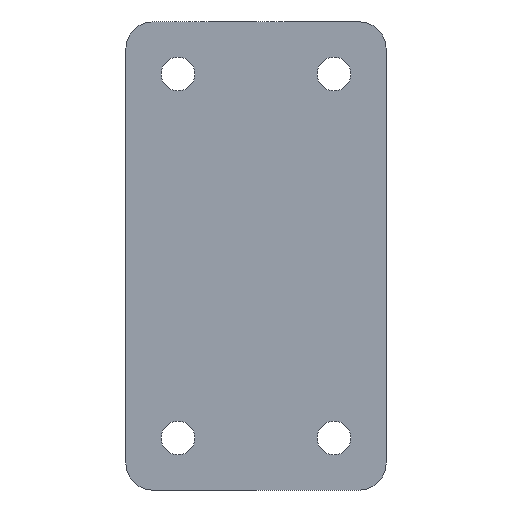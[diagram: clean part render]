
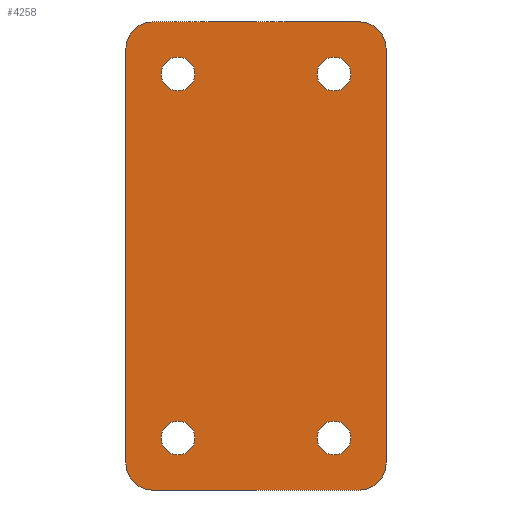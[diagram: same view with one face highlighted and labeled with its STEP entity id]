
A CAD part, front view. The second image highlights one B-rep face of the part: STEP entity #4258.
In plain terms, the highlighted planar face has unit normal (0, -1, 0).
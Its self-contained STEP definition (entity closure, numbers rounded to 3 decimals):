
#90 = ORIENTED_EDGE ( 'NONE', *, *, #631, .T. ) ;
#117 = EDGE_LOOP ( 'NONE', ( #2375, #2669 ) ) ;
#144 = DIRECTION ( 'NONE',  ( 0., 0., 1. ) ) ;
#202 = CARTESIAN_POINT ( 'NONE',  ( -40., -5., 80. ) ) ;
#277 = ORIENTED_EDGE ( 'NONE', *, *, #3677, .T. ) ;
#337 = AXIS2_PLACEMENT_3D ( 'NONE', #1187, #3618, #4159 ) ;
#358 = CARTESIAN_POINT ( 'NONE',  ( -50., -5., 80. ) ) ;
#398 = CARTESIAN_POINT ( 'NONE',  ( 0., -5., 0. ) ) ;
#404 = DIRECTION ( 'NONE',  ( 0., 1., 0. ) ) ;
#414 = VERTEX_POINT ( 'NONE', #6115 ) ;
#532 = EDGE_CURVE ( 'NONE', #3685, #6202, #1707, .T. ) ;
#551 = VERTEX_POINT ( 'NONE', #2772 ) ;
#557 = CIRCLE ( 'NONE', #4397, 6.5 ) ;
#631 = EDGE_CURVE ( 'NONE', #551, #414, #557, .T. ) ;
#690 = CARTESIAN_POINT ( 'NONE',  ( -50., -5., -80. ) ) ;
#759 = CARTESIAN_POINT ( 'NONE',  ( -40., -5., -90. ) ) ;
#819 = ORIENTED_EDGE ( 'NONE', *, *, #3833, .T. ) ;
#872 = ORIENTED_EDGE ( 'NONE', *, *, #1612, .F. ) ;
#945 = CIRCLE ( 'NONE', #5158, 6.5 ) ;
#958 = DIRECTION ( 'NONE',  ( 0., 0., 1. ) ) ;
#1000 = CIRCLE ( 'NONE', #4966, 6.5 ) ;
#1027 = CARTESIAN_POINT ( 'NONE',  ( -30., -5., -70. ) ) ;
#1046 = DIRECTION ( 'NONE',  ( 0., 1., 0. ) ) ;
#1048 = DIRECTION ( 'NONE',  ( 0., 0., 1. ) ) ;
#1091 = DIRECTION ( 'NONE',  ( -1., 0., 0. ) ) ;
#1110 = DIRECTION ( 'NONE',  ( 0., 0., -1. ) ) ;
#1115 = DIRECTION ( 'NONE',  ( 0., -1., 0. ) ) ;
#1164 = EDGE_LOOP ( 'NONE', ( #1904, #3305, #872, #4162, #3911, #6103, #1541, #2469 ) ) ;
#1187 = CARTESIAN_POINT ( 'NONE',  ( 30., -5., 70. ) ) ;
#1243 = DIRECTION ( 'NONE',  ( 0., -1., 0. ) ) ;
#1374 = CIRCLE ( 'NONE', #4313, 6.5 ) ;
#1464 = VERTEX_POINT ( 'NONE', #2437 ) ;
#1482 = EDGE_CURVE ( 'NONE', #4222, #5170, #945, .T. ) ;
#1507 = DIRECTION ( 'NONE',  ( 0., 1., 0. ) ) ;
#1520 = EDGE_CURVE ( 'NONE', #2970, #6202, #3714, .T. ) ;
#1541 = ORIENTED_EDGE ( 'NONE', *, *, #4040, .F. ) ;
#1595 = AXIS2_PLACEMENT_3D ( 'NONE', #2624, #1115, #3663 ) ;
#1611 = CARTESIAN_POINT ( 'NONE',  ( 50., -5., -80. ) ) ;
#1612 = EDGE_CURVE ( 'NONE', #3685, #5223, #1934, .T. ) ;
#1654 = DIRECTION ( 'NONE',  ( 0., 1., 0. ) ) ;
#1677 = CARTESIAN_POINT ( 'NONE',  ( -30., -5., 63.5 ) ) ;
#1692 = FACE_BOUND ( 'NONE', #5657, .T. ) ;
#1707 = CIRCLE ( 'NONE', #5811, 10. ) ;
#1791 = CARTESIAN_POINT ( 'NONE',  ( -50., -5., -90. ) ) ;
#1838 = VECTOR ( 'NONE', #2371, 1000. ) ;
#1864 = VECTOR ( 'NONE', #1091, 1000. ) ;
#1904 = ORIENTED_EDGE ( 'NONE', *, *, #4350, .F. ) ;
#1934 = LINE ( 'NONE', #3068, #1864 ) ;
#1952 = VERTEX_POINT ( 'NONE', #690 ) ;
#2158 = DIRECTION ( 'NONE',  ( 0., -1., 0. ) ) ;
#2217 = AXIS2_PLACEMENT_3D ( 'NONE', #6374, #404, #5878 ) ;
#2321 = EDGE_LOOP ( 'NONE', ( #819, #6323 ) ) ;
#2371 = DIRECTION ( 'NONE',  ( 0., 0., 1. ) ) ;
#2375 = ORIENTED_EDGE ( 'NONE', *, *, #2468, .T. ) ;
#2379 = DIRECTION ( 'NONE',  ( 0., 1., 0. ) ) ;
#2415 = CARTESIAN_POINT ( 'NONE',  ( 40., -5., -90. ) ) ;
#2437 = CARTESIAN_POINT ( 'NONE',  ( 40., -5., 90. ) ) ;
#2468 = EDGE_CURVE ( 'NONE', #5166, #5383, #5016, .T. ) ;
#2469 = ORIENTED_EDGE ( 'NONE', *, *, #2653, .T. ) ;
#2547 = AXIS2_PLACEMENT_3D ( 'NONE', #1027, #1507, #1048 ) ;
#2566 = CIRCLE ( 'NONE', #5193, 10. ) ;
#2624 = CARTESIAN_POINT ( 'NONE',  ( -40., -5., -80. ) ) ;
#2653 = EDGE_CURVE ( 'NONE', #4121, #2817, #2566, .T. ) ;
#2669 = ORIENTED_EDGE ( 'NONE', *, *, #3365, .T. ) ;
#2672 = CARTESIAN_POINT ( 'NONE',  ( 50., -5., 80. ) ) ;
#2680 = AXIS2_PLACEMENT_3D ( 'NONE', #398, #6310, #5250 ) ;
#2715 = DIRECTION ( 'NONE',  ( 0., 0., 1. ) ) ;
#2728 = CARTESIAN_POINT ( 'NONE',  ( -30., -5., -76.5 ) ) ;
#2731 = CARTESIAN_POINT ( 'NONE',  ( 30., -5., -70. ) ) ;
#2772 = CARTESIAN_POINT ( 'NONE',  ( 30., -5., -76.5 ) ) ;
#2817 = VERTEX_POINT ( 'NONE', #358 ) ;
#2850 = CIRCLE ( 'NONE', #2547, 6.5 ) ;
#2896 = DIRECTION ( 'NONE',  ( 0., 1., 0. ) ) ;
#2970 = VERTEX_POINT ( 'NONE', #2672 ) ;
#2978 = CIRCLE ( 'NONE', #5310, 10. ) ;
#3068 = CARTESIAN_POINT ( 'NONE',  ( -50., -5., -90. ) ) ;
#3077 = FACE_BOUND ( 'NONE', #3857, .T. ) ;
#3123 = CARTESIAN_POINT ( 'NONE',  ( -30., -5., -70. ) ) ;
#3137 = CARTESIAN_POINT ( 'NONE',  ( 40., -5., 80. ) ) ;
#3219 = FACE_BOUND ( 'NONE', #117, .T. ) ;
#3267 = CARTESIAN_POINT ( 'NONE',  ( -30., -5., 76.5 ) ) ;
#3305 = ORIENTED_EDGE ( 'NONE', *, *, #5651, .T. ) ;
#3365 = EDGE_CURVE ( 'NONE', #5383, #5166, #1000, .T. ) ;
#3400 = AXIS2_PLACEMENT_3D ( 'NONE', #5327, #2379, #4366 ) ;
#3422 = ORIENTED_EDGE ( 'NONE', *, *, #1482, .T. ) ;
#3558 = CARTESIAN_POINT ( 'NONE',  ( -40., -5., 90. ) ) ;
#3576 = CARTESIAN_POINT ( 'NONE',  ( -30., -5., 70. ) ) ;
#3583 = EDGE_CURVE ( 'NONE', #414, #551, #5378, .T. ) ;
#3603 = CARTESIAN_POINT ( 'NONE',  ( 30., -5., 63.5 ) ) ;
#3618 = DIRECTION ( 'NONE',  ( 0., 1., 0. ) ) ;
#3663 = DIRECTION ( 'NONE',  ( 0., 0., 1. ) ) ;
#3677 = EDGE_CURVE ( 'NONE', #5170, #4222, #3924, .T. ) ;
#3685 = VERTEX_POINT ( 'NONE', #2415 ) ;
#3714 = LINE ( 'NONE', #4362, #4786 ) ;
#3833 = EDGE_CURVE ( 'NONE', #6077, #5925, #2850, .T. ) ;
#3857 = EDGE_LOOP ( 'NONE', ( #4489, #90 ) ) ;
#3902 = CARTESIAN_POINT ( 'NONE',  ( 30., -5., 70. ) ) ;
#3911 = ORIENTED_EDGE ( 'NONE', *, *, #1520, .F. ) ;
#3924 = CIRCLE ( 'NONE', #3400, 6.5 ) ;
#4040 = EDGE_CURVE ( 'NONE', #4121, #1464, #4365, .T. ) ;
#4121 = VERTEX_POINT ( 'NONE', #3558 ) ;
#4159 = DIRECTION ( 'NONE',  ( 0., 0., 1. ) ) ;
#4162 = ORIENTED_EDGE ( 'NONE', *, *, #532, .T. ) ;
#4171 = DIRECTION ( 'NONE',  ( 0., 0., 1. ) ) ;
#4222 = VERTEX_POINT ( 'NONE', #3267 ) ;
#4229 = DIRECTION ( 'NONE',  ( 0., 1., 0. ) ) ;
#4258 = ADVANCED_FACE ( 'NONE', ( #1692, #3219, #3077, #4300, #5542 ), #5809, .F. ) ;
#4300 = FACE_BOUND ( 'NONE', #2321, .T. ) ;
#4313 = AXIS2_PLACEMENT_3D ( 'NONE', #3123, #1654, #2715 ) ;
#4350 = EDGE_CURVE ( 'NONE', #1952, #2817, #4683, .T. ) ;
#4362 = CARTESIAN_POINT ( 'NONE',  ( 50., -5., -90. ) ) ;
#4365 = LINE ( 'NONE', #4493, #5623 ) ;
#4366 = DIRECTION ( 'NONE',  ( 0., 0., 1. ) ) ;
#4397 = AXIS2_PLACEMENT_3D ( 'NONE', #2731, #4229, #6169 ) ;
#4489 = ORIENTED_EDGE ( 'NONE', *, *, #3583, .T. ) ;
#4493 = CARTESIAN_POINT ( 'NONE',  ( -50., -5., 90. ) ) ;
#4517 = DIRECTION ( 'NONE',  ( 0., -1., 0. ) ) ;
#4584 = CIRCLE ( 'NONE', #1595, 10. ) ;
#4638 = CARTESIAN_POINT ( 'NONE',  ( 30., -5., 76.5 ) ) ;
#4673 = CARTESIAN_POINT ( 'NONE',  ( 40., -5., -80. ) ) ;
#4683 = LINE ( 'NONE', #1791, #1838 ) ;
#4786 = VECTOR ( 'NONE', #1110, 1000. ) ;
#4966 = AXIS2_PLACEMENT_3D ( 'NONE', #3902, #2896, #958 ) ;
#4978 = EDGE_CURVE ( 'NONE', #5925, #6077, #1374, .T. ) ;
#5016 = CIRCLE ( 'NONE', #337, 6.5 ) ;
#5019 = DIRECTION ( 'NONE',  ( 0., 0., 1. ) ) ;
#5065 = DIRECTION ( 'NONE',  ( 1., 0., 0. ) ) ;
#5158 = AXIS2_PLACEMENT_3D ( 'NONE', #3576, #1046, #144 ) ;
#5166 = VERTEX_POINT ( 'NONE', #4638 ) ;
#5170 = VERTEX_POINT ( 'NONE', #1677 ) ;
#5193 = AXIS2_PLACEMENT_3D ( 'NONE', #202, #2158, #5601 ) ;
#5223 = VERTEX_POINT ( 'NONE', #759 ) ;
#5250 = DIRECTION ( 'NONE',  ( 0., 0., 1. ) ) ;
#5310 = AXIS2_PLACEMENT_3D ( 'NONE', #3137, #4517, #5019 ) ;
#5327 = CARTESIAN_POINT ( 'NONE',  ( -30., -5., 70. ) ) ;
#5378 = CIRCLE ( 'NONE', #2217, 6.5 ) ;
#5383 = VERTEX_POINT ( 'NONE', #3603 ) ;
#5396 = EDGE_CURVE ( 'NONE', #2970, #1464, #2978, .T. ) ;
#5542 = FACE_OUTER_BOUND ( 'NONE', #1164, .T. ) ;
#5601 = DIRECTION ( 'NONE',  ( 0., 0., 1. ) ) ;
#5623 = VECTOR ( 'NONE', #5065, 1000. ) ;
#5651 = EDGE_CURVE ( 'NONE', #1952, #5223, #4584, .T. ) ;
#5657 = EDGE_LOOP ( 'NONE', ( #3422, #277 ) ) ;
#5809 = PLANE ( 'NONE',  #2680 ) ;
#5811 = AXIS2_PLACEMENT_3D ( 'NONE', #4673, #1243, #4171 ) ;
#5878 = DIRECTION ( 'NONE',  ( 0., 0., 1. ) ) ;
#5925 = VERTEX_POINT ( 'NONE', #2728 ) ;
#6077 = VERTEX_POINT ( 'NONE', #6184 ) ;
#6103 = ORIENTED_EDGE ( 'NONE', *, *, #5396, .T. ) ;
#6115 = CARTESIAN_POINT ( 'NONE',  ( 30., -5., -63.5 ) ) ;
#6169 = DIRECTION ( 'NONE',  ( 0., 0., 1. ) ) ;
#6184 = CARTESIAN_POINT ( 'NONE',  ( -30., -5., -63.5 ) ) ;
#6202 = VERTEX_POINT ( 'NONE', #1611 ) ;
#6310 = DIRECTION ( 'NONE',  ( 0., 1., 0. ) ) ;
#6323 = ORIENTED_EDGE ( 'NONE', *, *, #4978, .T. ) ;
#6374 = CARTESIAN_POINT ( 'NONE',  ( 30., -5., -70. ) ) ;
